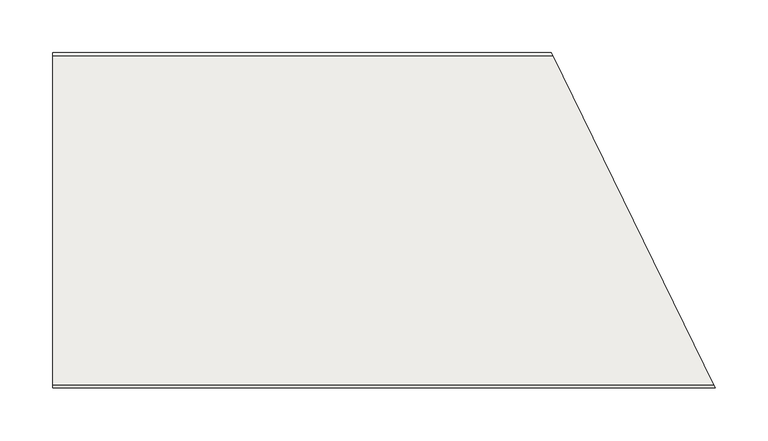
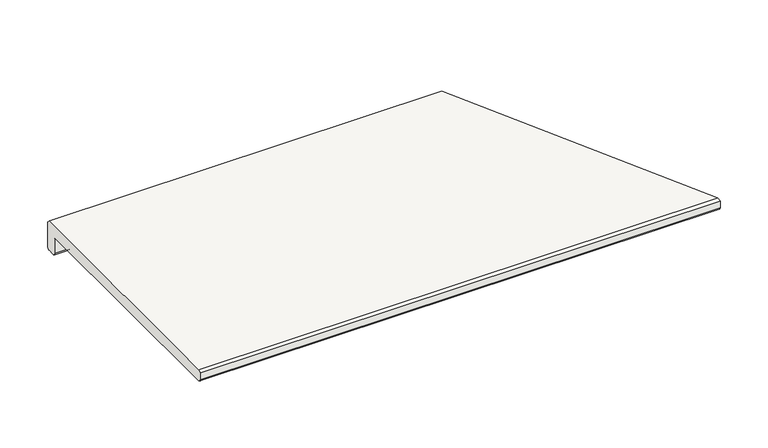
"""IFC4 building model written with IfcOpenShell, lengths in millimetres: slab geometry, ROSA GRES_L62 (corte) : Pieza L62_Serena_Ocra_Anti-Slip."""

from ifc_helpers import new_model, si_unit, frame, origin, place, context, project, spatial, polyline, circle_curve, ellipse_curve, source, transform, mapped, element, save
from ifc_brep_helpers import plane_surface, cylinder_surface, revolved_surface, advanced_brep


def slab_8398dfb0(model_context):
    return source(origin(), model_context, "Body", "AdvancedBrep", [
        advanced_brep(
        [(0.0, 0.0, -20.5), (0.0, -2.5, -23.0), (0.0, -11.5, -23.0), (0.0, -14.0, -20.5), (0.0, -14.0, -2.5), (0.0, -16.5, 0.0), (0.0, -314.5, 0.0), (0.0, -317.0, 2.5), (0.0, -317.0, 11.5), (0.0, -314.5, 14.0), (0.0, -2.5, 14.0), (0.0, 0.0, 11.5), (472.3642346, -2.5, 14.0), (471.1449031, 0.0, 11.5), (625.7561337, -317.0, 11.5), (624.5368022, -314.5, 14.0), (472.3642346, -2.5, -23.0), (476.7538279, -11.5, -23.0), (624.5368022, -314.5, 0.0), (625.7561337, -317.0, 2.5), (471.1449031, 0.0, -20.5), (477.9731594, -14.0, -20.5), (479.1924908, -16.5, 0.0), (477.9731594, -14.0, -2.5)],
        [
            (0, 1, circle_curve(frame((0.0, -2.5, -20.5), z_axis=(-1.0, 0.0, 0.0), x_axis=(0.0, 0.0, -1.0)), 2.5)),
            (1, 2),
            (2, 3, circle_curve(frame((0.0, -11.5, -20.5), z_axis=(-1.0, 0.0, 0.0), x_axis=(0.0, 0.0, -1.0)), 2.5)),
            (3, 4),
            (4, 5, circle_curve(frame((0.0, -16.5, -2.5), z_axis=(1.0, 0.0, 0.0), x_axis=(0.0, 0.0, -1.0)), 2.5)),
            (5, 6),
            (6, 7, circle_curve(frame((0.0, -314.5, 2.5), z_axis=(-1.0, 0.0, 0.0), x_axis=(0.0, 0.0, -1.0)), 2.5)),
            (7, 8),
            (8, 9),
            (9, 10),
            (10, 11),
            (11, 0),
            (10, 12),
            (12, 13),
            (13, 11),
            (8, 14),
            (14, 15),
            (15, 9),
            (1, 16),
            (16, 17),
            (17, 2),
            (6, 18),
            (18, 19, ellipse_curve(frame((624.5368022, -314.5, 2.5), z_axis=(-0.898794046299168, -0.43837114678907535, 0.0), x_axis=(-0.4383711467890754, 0.8987940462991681, 0.0)), 2.7815049, 2.5)),
            (19, 7),
            (19, 14),
            (13, 20),
            (20, 0),
            (20, 16, ellipse_curve(frame((472.3642346, -2.5, -20.5), z_axis=(-0.898794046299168, -0.43837114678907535, 0.0), x_axis=(-0.4383711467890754, 0.8987940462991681, 0.0)), 2.7815049, 2.5)),
            (17, 21, ellipse_curve(frame((476.7538279, -11.5, -20.5), z_axis=(-0.898794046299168, -0.43837114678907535, 0.0), x_axis=(-0.4383711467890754, 0.8987940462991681, 0.0)), 2.7815049, 2.5)),
            (21, 3),
            (15, 12),
            (5, 22),
            (22, 18),
            (4, 23),
            (23, 22, ellipse_curve(frame((479.1924908, -16.5, -2.5), z_axis=(0.898794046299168, 0.43837114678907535, 0.0), x_axis=(0.4383711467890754, -0.8987940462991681, 0.0)), 2.7815049, 2.5)),
            (21, 23),
        ],
        [
            plane_surface(frame((0.0, 0.0, 0.0), z_axis=(-1.0, 0.0, 0.0), x_axis=(0.0, 0.0, 1.0))),
            plane_surface(frame((0.0, 0.0, 11.5), z_axis=(0.0, 0.707106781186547, 0.7071067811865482), x_axis=(1.0, 0.0, 0.0))),
            plane_surface(frame((0.0, -314.5, 14.0), z_axis=(0.0, -0.707106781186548, 0.707106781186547), x_axis=(1.0, 0.0, 0.0))),
            plane_surface(frame((0.0, -11.5, -23.0), z_axis=(0.0, 0.0, -1.0), x_axis=(1.0, 0.0, 0.0))),
            cylinder_surface(frame((0.0, -314.5, 2.5), z_axis=(-1.0, 0.0, 0.0), x_axis=(0.0, 0.0, -1.0)), 2.5),
            plane_surface(frame((0.0, -317.0, 11.5), z_axis=(0.0, -1.0, 0.0), x_axis=(1.0, 0.0, 0.0))),
            plane_surface(frame((0.0, 0.0, -20.5), z_axis=(0.0, 1.0, 0.0), x_axis=(1.0, 0.0, 0.0))),
            cylinder_surface(frame((0.0, -2.5, -20.5), z_axis=(-1.0, 0.0, 0.0), x_axis=(0.0, 0.0, -1.0)), 2.5),
            cylinder_surface(frame((0.0, -11.5, -20.5), z_axis=(-1.0, 0.0, 0.0), x_axis=(0.0, 0.0, -1.0)), 2.5),
            plane_surface(frame((0.0, -2.5, 14.0), z_axis=(0.0, 0.0, 1.0), x_axis=(1.0, 0.0, 0.0))),
            plane_surface(frame((0.0, -314.5, 0.0), z_axis=(0.0, 0.0, -1.0), x_axis=(1.0, 0.0, 0.0))),
            revolved_surface(polyline([(480.4118222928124, -16.5, -5.0), (0.0, -16.5, -5.0)]), (0.0, -16.5, -2.5), (1.0, 0.0, 0.0)),
            plane_surface(frame((0.0, -14.0, -2.5), z_axis=(0.0, -1.0, 0.0), x_axis=(1.0, 0.0, 0.0))),
            plane_surface(frame((626.0, -317.5, 86.9871832), z_axis=(0.898794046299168, 0.43837114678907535, 0.0), x_axis=(0.0, 0.0, -1.0))),
        ],
        [
            (0, [[1, 2, 3, 4, 5, 6, 7, 8, 9, 10, 11, 12]]),
            (1, [[13, 14, 15, -11]]),
            (2, [[16, 17, 18, -9]]),
            (3, [[19, 20, 21, -2]]),
            (4, [[22, 23, 24, -7]]),
            (5, [[-24, 25, -16, -8]]),
            (6, [[-15, 26, 27, -12]]),
            (7, [[-27, 28, -19, -1]]),
            (8, [[-21, 29, 30, -3]]),
            (9, [[-18, 31, -13, -10]]),
            (10, [[32, 33, -22, -6]]),
            (11, [[34, 35, -32, -5]]),
            (12, [[-30, 36, -34, -4]]),
            (13, [[-14, -31, -17, -25, -23, -33, -35, -36, -29, -20, -28, -26]]),
        ],
    ),
    ])


if __name__ == "__main__":
    model = new_model("IFC4")
    model_context = context("Model", 3, world=origin())
    ifc_project = project(units=[si_unit("LENGTHUNIT", "METRE", prefix="MILLI")], contexts=[model_context])
    site = spatial("IfcSite", under=ifc_project)
    building = spatial("IfcBuilding", under=site)
    placement = place(None, origin())
    slab_shape = slab_8398dfb0(model_context)
    element("IfcSlab", 1, ObjectType="ROSA GRES_L62 (corte) : Pieza L62_Serena_Ocra_Anti-Slip", at=placement, inside=building, context=model_context, shape_type="MappedRepresentation", body=[
        mapped(slab_shape, transform((0.0, 0.0, 0.0), x_axis=(1.0, 0.0, 0.0), y_axis=(0.0, 1.0, 0.0), z_axis=(0.0, 0.0, 1.0))),
    ])
    save(model, "model.ifc")
